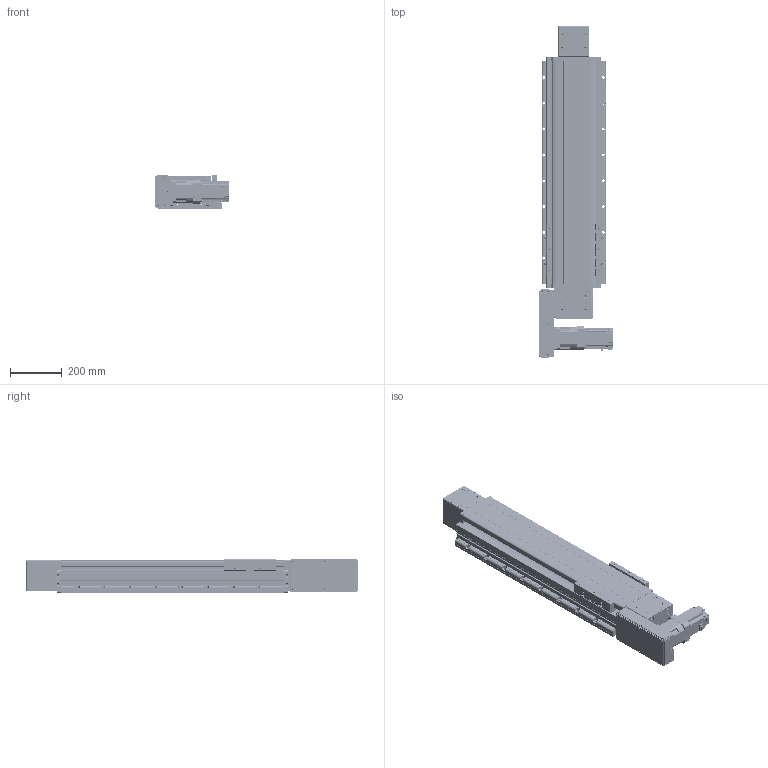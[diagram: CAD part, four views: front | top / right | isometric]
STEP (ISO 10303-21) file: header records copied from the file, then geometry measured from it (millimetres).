
FILE_DESCRIPTION(/* description */ (''),/* implementation_level */ '2;1');
FILE_NAME(/* name */ '\\192.168.0.160\disk1\HAN SHIN Master\B-설계부문\C-표준\B-2024년\BC02-표준도면\+로봇 개선표준도면\홈페이지 표준 도면\홈페이지 최종 작업 폴더\3D\HSB\HSB210\HSB210-L7G-N-0600-R.stp',/* time_stamp */ '2025-01-04T10:45:19+09:00',/* author */ ('user'),/* organization */ (''),/* preprocessor_version */ 'ST-DEVELOPER v18.1',/* originating_system */ 'Autodesk Inventor 2022',/* authorisation */ '');
FILE_SCHEMA (('AUTOMOTIVE_DESIGN { 1 0 10303 214 3 1 1 }'));
Products named in the file (37): HSB210-L7G-N-0500-R; HSB210 BASE - 2000ST; HSB210 FORNT HOUSUNG-Connecting Shaft; HSB160 SHAFT-1; HSB160 BEARING OVER; HSB210 FRONT COVER; REAR HOUSUNG-1-R1; HSB160 ARC COVER; HSB160 REAR SHAFT-2; REAR SHAFT--2; 6004ZZ; 6004ZZ Outer ring; 6004ZZ Shield1; 6004ZZ Inner ring; 6004ZZ Ball; 6004ZZ Shield2; UPCOVER; SIDE COVER; PGX90-H-1_3; HR200 SENSOR DOG; hsr_ftht_A-M6F_grease_nipple_joint; NIPPLE CAP(신규); SENSOR BRK(EE-SX674A); EE_SX674A; 6308ZZ; TENSION PLATE; HSB210 END COVER-1; HG90STOPPER - 27L; HSB210 TABLE (TEST); hg-kr73_; HSB210 L MOTOR PLATE ASSY; HG200 750W LR MOTOR PLATE-사출; 750W MOTOR PLATE; HR180,200-ACRYL COVER 2; HR180,200-ACRYL COVER; HG200-R L-BELT COVER; HR180,200-ACRYL COVER 3
Assembly tree (70 placements, depth 3):
  HSB210-L7G-N-0500-R
    HSB210 BASE - 2000ST
    HSB210 FRONT COVER  x2
    HSB210 FORNT HOUSUNG-Connecting Shaft
    HSB160 SHAFT-1
    HSB160 BEARING OVER
    HSB160 ARC COVER  x4
    REAR HOUSUNG-1-R1
    HSB160 REAR SHAFT-2
    REAR SHAFT--2
    6004ZZ  x2
      6004ZZ Outer ring
      6004ZZ Shield1
      6004ZZ Inner ring
      6004ZZ Ball
      6004ZZ Shield2
    TENSION PLATE  x2
    UPCOVER
    SIDE COVER  x2
    PGX90-H-1_3
    HG90STOPPER - 27L  x4
    HR200 SENSOR DOG
    SENSOR BRK(EE-SX674A)  x3
    EE_SX674A  x3
    NIPPLE CAP(신규)  x4
    hsr_ftht_A-M6F_grease_nipple_joint  x4
    6308ZZ  x2
    HSB210 END COVER-1
    HSB210 TABLE (TEST)
    hg-kr73_
    HSB210 L MOTOR PLATE ASSY
      HG200 750W LR MOTOR PLATE-사출
      750W MOTOR PLATE
      HR180,200-ACRYL COVER 2
      HR180,200-ACRYL COVER 3  x2
      HR180,200-ACRYL COVER
      HG200-R L-BELT COVER
Bounding box: 284.5 x 1285.5 x 131.5 mm (x, y, z)
Volume: 12469439.9 mm3; surface area: 2838483.9 mm2
Topology: 131 solids, 133 shells, 8001 faces, 22259 edges, 14699 vertices
Faces by surface type: plane 6032, cylinder 1407, cone 394, sphere 84, torus 59, bspline 25
Full cylindrical faces by diameter (mm): 2.013 x2, 2.459 x48, 3 x8, 3.2 x4, 3.242 x58, 3.4 x20, 3.5 x6, 4.134 x2, 4.2 x16, 4.5 x36, 4.917 x36, 5 x56, 5.1 x1, 5.5 x13, 5.6 x4, 5.9 x4, 6 x15, 6.5 x9, 6.6 x8, 6.647 x46, 6.8 x9, 7 x20, 7.6 x4, 8 x13, 8.433 x2, 9 x46, 9.5 x7, 10 x5, 10.106 x16, 11 x20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
Entity records: 174966 total; most frequent: CARTESIAN_POINT 34054, ORIENTED_EDGE 29192, DIRECTION 27982, EDGE_CURVE 14596, LINE 11334, VECTOR 11334, VERTEX_POINT 9730, AXIS2_PLACEMENT_3D 8324
